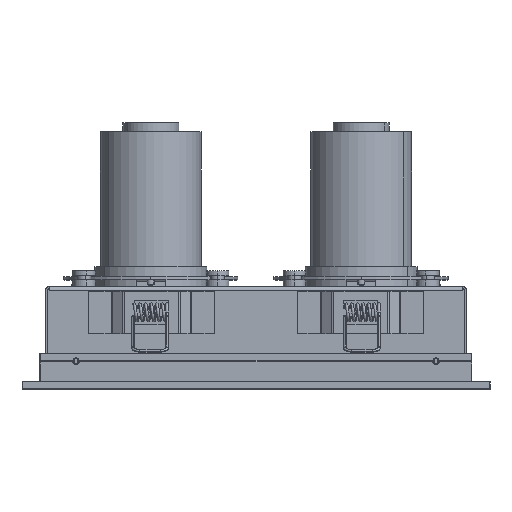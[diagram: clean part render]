
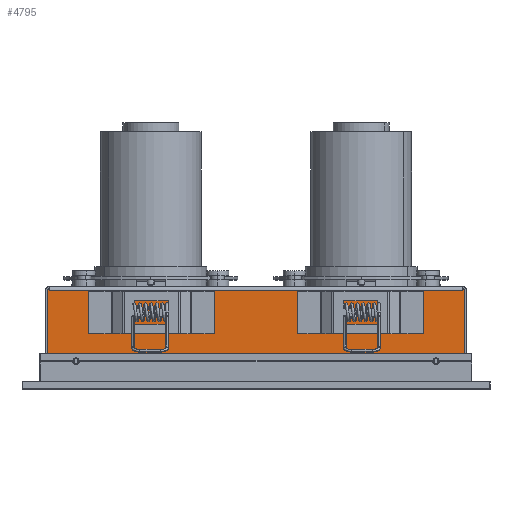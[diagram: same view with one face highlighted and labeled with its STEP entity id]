
A CAD part, top view. The second image highlights one B-rep face of the part: STEP entity #4795.
In plain terms, the highlighted planar face has unit normal (0, 0, 1).
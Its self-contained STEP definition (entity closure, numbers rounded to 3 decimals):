
#98 = LINE ( 'NONE', #12509, #566 ) ;
#192 = CARTESIAN_POINT ( 'NONE',  ( -91.9, 41.4, 47. ) ) ;
#566 = VECTOR ( 'NONE', #12717, 1000. ) ;
#969 = LINE ( 'NONE', #5997, #8768 ) ;
#1767 = ORIENTED_EDGE ( 'NONE', *, *, #5900, .T. ) ;
#2245 = ORIENTED_EDGE ( 'NONE', *, *, #11832, .T. ) ;
#2379 = EDGE_CURVE ( 'NONE', #8920, #15622, #98, .T. ) ;
#2958 = FACE_OUTER_BOUND ( 'NONE', #5163, .T. ) ;
#3344 = CARTESIAN_POINT ( 'NONE',  ( 92.629, 43., 47. ) ) ;
#3637 = CARTESIAN_POINT ( 'NONE',  ( -92.629, 0., 47. ) ) ;
#4450 = CARTESIAN_POINT ( 'NONE',  ( 92.629, 0., 47. ) ) ;
#4526 = VECTOR ( 'NONE', #14670, 1000. ) ;
#4795 = ADVANCED_FACE ( 'NONE', ( #2958 ), #11292, .F. ) ;
#4900 = DIRECTION ( 'NONE',  ( 0., 1., 0. ) ) ;
#5163 = EDGE_LOOP ( 'NONE', ( #13009, #16925, #9550, #13480, #1767, #5927, #2245, #10480 ) ) ;
#5662 = CARTESIAN_POINT ( 'NONE',  ( 93.5, 0., 47. ) ) ;
#5839 = VERTEX_POINT ( 'NONE', #15453 ) ;
#5900 = EDGE_CURVE ( 'NONE', #15622, #18170, #17517, .T. ) ;
#5927 = ORIENTED_EDGE ( 'NONE', *, *, #8159, .T. ) ;
#5997 = CARTESIAN_POINT ( 'NONE',  ( 93.5, 41.33, 47. ) ) ;
#6581 = CARTESIAN_POINT ( 'NONE',  ( 91.9, 41.33, 47. ) ) ;
#6707 = CARTESIAN_POINT ( 'NONE',  ( -92.629, 41.33, 47. ) ) ;
#7531 = CARTESIAN_POINT ( 'NONE',  ( -91.9, 41.33, 47. ) ) ;
#7571 = DIRECTION ( 'NONE',  ( 1., 0., 0. ) ) ;
#7803 = VECTOR ( 'NONE', #10276, 1000. ) ;
#8159 = EDGE_CURVE ( 'NONE', #18170, #10703, #9142, .T. ) ;
#8768 = VECTOR ( 'NONE', #7571, 1000. ) ;
#8920 = VERTEX_POINT ( 'NONE', #7531 ) ;
#9142 = LINE ( 'NONE', #5662, #4526 ) ;
#9223 = VECTOR ( 'NONE', #14686, 1000. ) ;
#9550 = ORIENTED_EDGE ( 'NONE', *, *, #19190, .F. ) ;
#10127 = CARTESIAN_POINT ( 'NONE',  ( 91.9, 41.4, 47. ) ) ;
#10250 = LINE ( 'NONE', #16528, #17601 ) ;
#10256 = EDGE_CURVE ( 'NONE', #18416, #16308, #10250, .T. ) ;
#10276 = DIRECTION ( 'NONE',  ( 0., 1., 0. ) ) ;
#10277 = AXIS2_PLACEMENT_3D ( 'NONE', #11210, #11035, #11018 ) ;
#10480 = ORIENTED_EDGE ( 'NONE', *, *, #13940, .F. ) ;
#10703 = VERTEX_POINT ( 'NONE', #4450 ) ;
#10805 = VECTOR ( 'NONE', #13822, 1000. ) ;
#11018 = DIRECTION ( 'NONE',  ( -1., 0., 0. ) ) ;
#11035 = DIRECTION ( 'NONE',  ( 0., 0., -1. ) ) ;
#11210 = CARTESIAN_POINT ( 'NONE',  ( 93.5, 43., 47. ) ) ;
#11292 = PLANE ( 'NONE',  #10277 ) ;
#11557 = CARTESIAN_POINT ( 'NONE',  ( 91.9, 43., 47. ) ) ;
#11802 = LINE ( 'NONE', #11557, #7803 ) ;
#11832 = EDGE_CURVE ( 'NONE', #10703, #5839, #17366, .T. ) ;
#12334 = CARTESIAN_POINT ( 'NONE',  ( -91.9, 43., 47. ) ) ;
#12509 = CARTESIAN_POINT ( 'NONE',  ( 93.5, 41.33, 47. ) ) ;
#12717 = DIRECTION ( 'NONE',  ( -1., 0., 0. ) ) ;
#13009 = ORIENTED_EDGE ( 'NONE', *, *, #14863, .T. ) ;
#13011 = VECTOR ( 'NONE', #4900, 1000. ) ;
#13480 = ORIENTED_EDGE ( 'NONE', *, *, #2379, .T. ) ;
#13822 = DIRECTION ( 'NONE',  ( 0., 1., 0. ) ) ;
#13940 = EDGE_CURVE ( 'NONE', #15510, #5839, #969, .T. ) ;
#14670 = DIRECTION ( 'NONE',  ( 1., 0., 0. ) ) ;
#14686 = DIRECTION ( 'NONE',  ( 0., -1., 0. ) ) ;
#14863 = EDGE_CURVE ( 'NONE', #15510, #18416, #11802, .T. ) ;
#15453 = CARTESIAN_POINT ( 'NONE',  ( 92.629, 41.33, 47. ) ) ;
#15510 = VERTEX_POINT ( 'NONE', #6581 ) ;
#15603 = CARTESIAN_POINT ( 'NONE',  ( -92.629, 43., 47. ) ) ;
#15622 = VERTEX_POINT ( 'NONE', #6707 ) ;
#16308 = VERTEX_POINT ( 'NONE', #192 ) ;
#16528 = CARTESIAN_POINT ( 'NONE',  ( 93.5, 41.4, 47. ) ) ;
#16925 = ORIENTED_EDGE ( 'NONE', *, *, #10256, .T. ) ;
#17366 = LINE ( 'NONE', #3344, #13011 ) ;
#17517 = LINE ( 'NONE', #15603, #9223 ) ;
#17601 = VECTOR ( 'NONE', #18004, 1000. ) ;
#18004 = DIRECTION ( 'NONE',  ( -1., 0., 0. ) ) ;
#18170 = VERTEX_POINT ( 'NONE', #3637 ) ;
#18416 = VERTEX_POINT ( 'NONE', #10127 ) ;
#18609 = LINE ( 'NONE', #12334, #10805 ) ;
#19190 = EDGE_CURVE ( 'NONE', #8920, #16308, #18609, .T. ) ;
